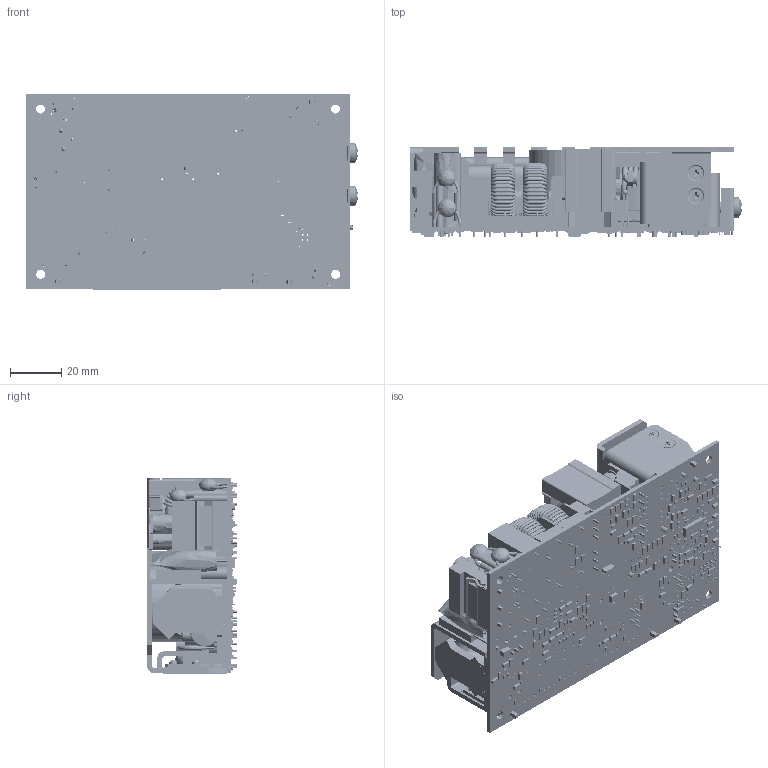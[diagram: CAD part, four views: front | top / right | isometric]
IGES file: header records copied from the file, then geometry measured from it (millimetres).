
Start section: SolidWorks IGES file using analytic representation for surfaces
Global section: file name: H:\Martin Beeson\Solidworks\EMH350 Unit Assy.IGS; native system: SolidWorks 2011; preprocessor: SolidWorks 2011; author: mbeeson; date: 110721.101438; units: millimetre
Bounding box: 130.06 x 35.4 x 76.59 mm (x, y, z)
Surface area: 150682.4 mm2 (no closed solid volume)
Topology: 0 solids, 0 shells, 7094 faces, 60686 edges, 60614 vertices
Faces by surface type: bspline 4694, revolution 2400
